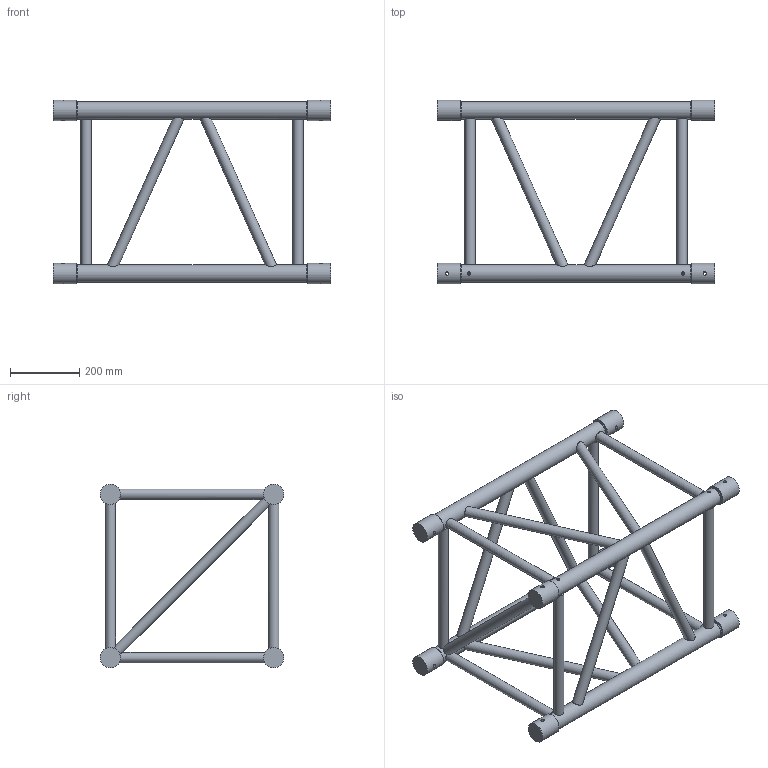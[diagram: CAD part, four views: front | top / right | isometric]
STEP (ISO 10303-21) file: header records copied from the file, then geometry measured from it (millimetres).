
FILE_DESCRIPTION(/* description */ (''),/* implementation_level */ '2;1');
FILE_NAME(/* name */ 'C:\Users\stephan\Desktop\Nieuwe map\111110103.stp',/* time_stamp */ '2017-10-05T15:24:47+02:00',/* author */ ('Stephan'),/* organization */ (''),/* preprocessor_version */ 'ST-DEVELOPER v16.13',/* originating_system */ 'Autodesk Inventor 2018',/* authorisation */ '');
FILE_SCHEMA (('AUTOMOTIVE_DESIGN { 1 0 10303 214 3 1 1 }'));
Length unit declared in the file: millimetre
Products named in the file (1): 111110103
Bounding box: 800 x 528.8 x 528.8 mm (x, y, z)
Volume: 12490552 mm3; surface area: 1343657.9 mm2
Topology: 1 solids, 1 shells, 242 faces, 586 edges, 352 vertices
Faces by surface type: plane 132, cylinder 70, cone 40
Full cylindrical faces by diameter (mm): 10 x8, 30 x18, 50 x4, 58.8 x8
Entity records: 9228 total; most frequent: CARTESIAN_POINT 3283, DIRECTION 1182, ORIENTED_EDGE 1072, EDGE_CURVE 536, AXIS2_PLACEMENT_3D 515, EDGE_LOOP 360, VERTEX_POINT 344, STYLED_ITEM 243
